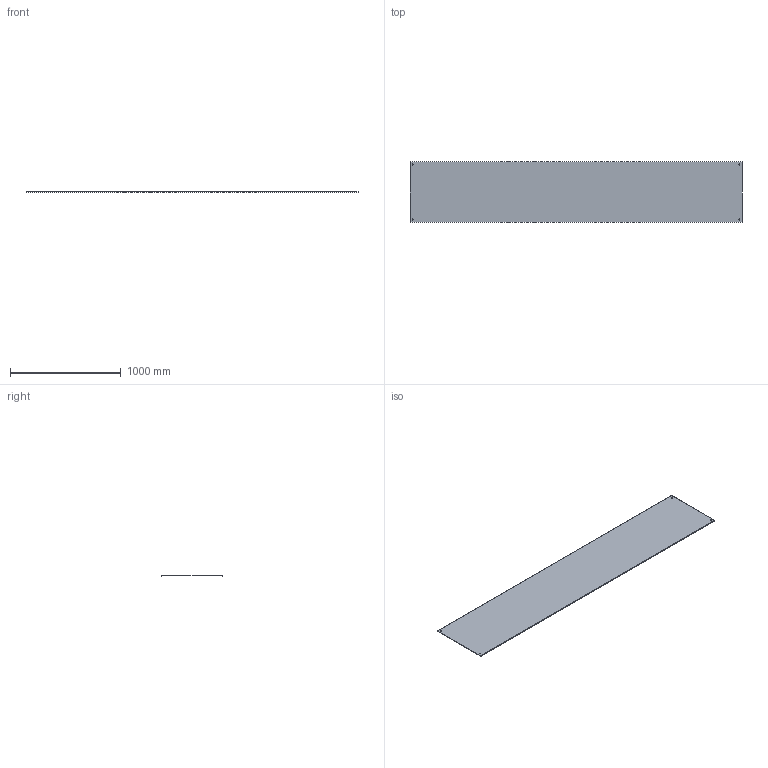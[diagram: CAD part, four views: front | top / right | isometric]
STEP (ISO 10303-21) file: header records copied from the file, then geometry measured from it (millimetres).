
FILE_DESCRIPTION(/* description */ ('','CAx-IF Rec.Pracs.---Representation and Presentation of Product Manufacturing Information (PMI)---4.0---2014-10-13'),/* implementation_level */ '2;1');
FILE_NAME(/* name */ 'Eurostrut_ECLSC-500_Straight Cover for Cable Ladder ECL.step',/* time_stamp */ '2026-09-08T14:27:08+02:00',/* author */ (''),/* organization */ (''),/* preprocessor_version */ 'ST-DEVELOPER v20.1',/* originating_system */ 'Autodesk Revit 2027 27.2.0.39',/* authorisation */ '');
FILE_SCHEMA (('AP242_MANAGED_MODEL_BASED_3D_ENGINEERING_MIM_LF { 1 0 10303 442 2 1 4 }'));
Length unit declared in the file: millimetre
Products named in the file (2): TopLevelAssembly; Extrusion
Assembly tree (1 placements, depth 2):
  TopLevelAssembly
    Extrusion
Bounding box: 3000 x 550 x 9 mm (x, y, z)
Volume: 2542028.8 mm3; surface area: 3400255.2 mm2
Topology: 1 solids, 1 shells, 18 faces, 48 edges, 32 vertices
Faces by surface type: plane 10, cylinder 8
Entity records: 618 total; most frequent: DIRECTION 106, CARTESIAN_POINT 101, ORIENTED_EDGE 96, EDGE_CURVE 48, AXIS2_PLACEMENT_3D 37, LINE 32, VECTOR 32, VERTEX_POINT 32
